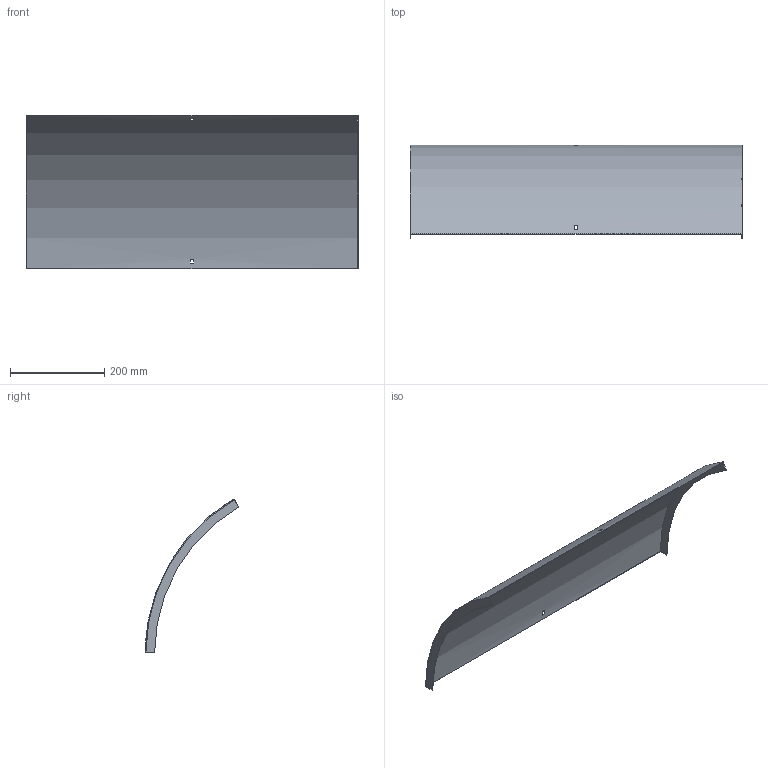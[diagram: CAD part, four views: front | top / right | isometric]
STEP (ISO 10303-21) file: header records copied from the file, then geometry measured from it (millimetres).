
FILE_DESCRIPTION (( 'STEP AP214' ), '1' );
FILE_NAME ('B2_41N3C700.step', '2025-02-21T10:41:20', ( '' ), ( '' ), 'SwSTEP 2.0', 'SolidWorks 2023', '' );
FILE_SCHEMA (( 'AUTOMOTIVE_DESIGN' ));
Length unit declared in the file: millimetre
Products named in the file (1): B2_41N3C700
Bounding box: 703 x 198.25 x 326.06 mm (x, y, z)
Volume: 436010.9 mm3; surface area: 584783.3 mm2
Topology: 1 solids, 1 shells, 18 faces, 48 edges, 32 vertices
Faces by surface type: plane 14, cylinder 4
Entity records: 599 total; most frequent: DIRECTION 102, CARTESIAN_POINT 99, ORIENTED_EDGE 96, EDGE_CURVE 48, AXIS2_PLACEMENT_3D 35, VECTOR 32, LINE 32, VERTEX_POINT 32
